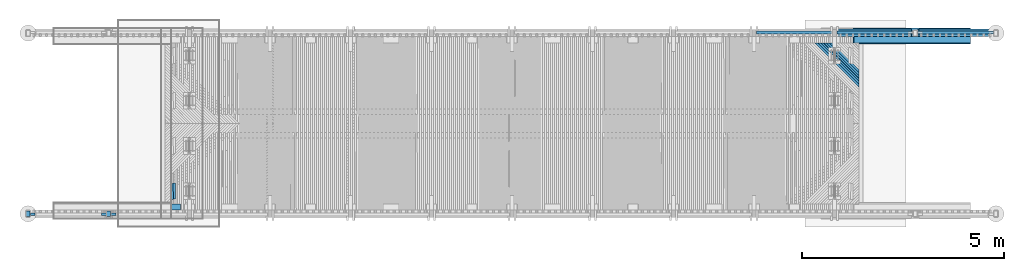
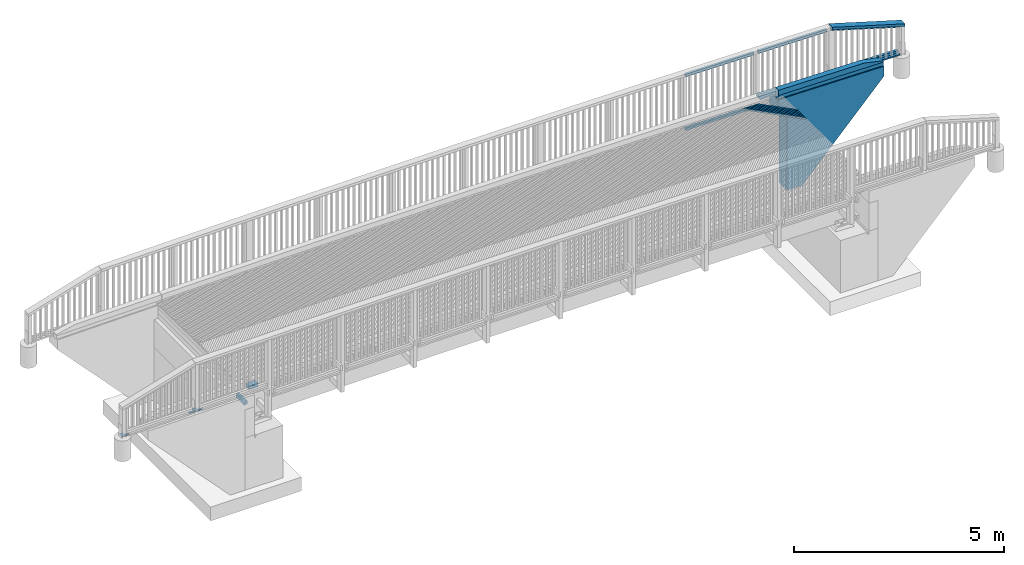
# One storey, part 46 of 52: 26 beams.
"""IFC2X3 building model written with IfcOpenShell, lengths in millimetres."""

from ifc_helpers import new_model, si_unit, frame, origin_with_axes, place, context, subcontext, project, spatial, faceted_brep, material, type_object, element, save


model = new_model("IFC2X3")

# Units and contexts
model_context = context("Model", 3, precision=1e-05, world=origin_with_axes())
body_context = subcontext(model_context, "Body", "Model", "MODEL_VIEW")
ifc_project = project(units=[si_unit("LENGTHUNIT", "METRE", prefix="MILLI"), si_unit("AREAUNIT", "SQUARE_METRE"), si_unit("VOLUMEUNIT", "CUBIC_METRE"), si_unit("MASSUNIT", "GRAM", prefix="KILO"), si_unit("TIMEUNIT", "SECOND"), si_unit("PLANEANGLEUNIT", "RADIAN"), si_unit("SOLIDANGLEUNIT", "STERADIAN"), si_unit("THERMODYNAMICTEMPERATUREUNIT", "DEGREE_CELSIUS"), si_unit("LUMINOUSINTENSITYUNIT", "LUMEN")], contexts=[model_context])

# Site, building, storey
site_placement = place(None, origin_with_axes())
site = spatial("IfcSite", under=ifc_project, at=site_placement, Name="Undefined", CompositionType="ELEMENT")
building_placement = place(site_placement, origin_with_axes())
building = spatial("IfcBuilding", under=site, at=building_placement, Name="Undefined", CompositionType="ELEMENT")
storey_placement = place(building_placement, origin_with_axes())
storey = spatial("IfcBuildingStorey", under=building, at=storey_placement, Name="Undefined", CompositionType="ELEMENT", Elevation=0.0)

# Beams
ifc_material_1 = material(Name="TIMBER/Timber_Undefined")
beam_type_1 = type_object("IfcBeamType", Name="150*100", PredefinedType="NOTDEFINED")
beam_1_placement = place(storey_placement, frame((19364.0305880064, 4439.99999999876, 3118.67572907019), z_axis=(0.0, -1.0, 0.0), x_axis=(-0.999904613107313, 0.0, 0.0138117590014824)))
element("IfcBeam", 1, at=beam_1_placement, inside=storey, type_object=beam_type_1, material=ifc_material_1, Name="TÖRMÄYSJOHDE", ObjectType="150*100", context=body_context, shape_type="Brep", body=[
    faceted_brep([(-3.63797880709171e-12, 50.0, -75.0), (-3.63797880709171e-12, 50.0, 75.0), (2885.27521749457, 50.0, 75.0), (2885.27521749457, 50.0, -75.0), (0.0, -49.9999999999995, 75.0), (2885.27521749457, -49.9999999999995, 75.0), (0.0, -49.9999999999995, -75.0), (2885.27521749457, -49.9999999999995, -75.0)], [[[0, 1, 2, 3]], [[1, 4, 5, 2]], [[4, 6, 7, 5]], [[6, 0, 3, 7]], [[5, 7, 3, 2]], [[6, 4, 1, 0]]]),
])
beam_2_placement = place(storey_placement, frame((-469.724815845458, 289.999999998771, 3158.3535078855), z_axis=(0.0, -1.0, 0.0), x_axis=(0.999891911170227, 0.0, 0.0147025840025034)))
element("IfcBeam", 2, at=beam_2_placement, inside=storey, type_object=beam_type_1, material=ifc_material_1, Name="TÖRMÄYSJOHDE", ObjectType="150*100", context=body_context, shape_type="Brep", body=[
    faceted_brep([(-3.63797880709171e-12, 50.0, -75.0), (-3.63797880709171e-12, 50.0, 75.0), (250.000589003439, 50.0000000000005, 75.0), (250.000589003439, 50.0000000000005, -75.0), (0.0, -49.9999999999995, 75.0), (250.000589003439, -50.0, 75.0), (0.0, -49.9999999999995, -75.0), (250.000589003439, -50.0, -75.0)], [[[0, 1, 2, 3]], [[1, 4, 5, 2]], [[4, 6, 7, 5]], [[6, 0, 3, 7]], [[5, 7, 3, 2]], [[6, 4, 1, 0]]]),
])
beam_type_2 = type_object("IfcBeamType", Name="150*150", PredefinedType="NOTDEFINED")
beam_3_placement = place(storey_placement, frame((19366.0358819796, 4439.99999999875, 3243.66334439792), z_axis=(0.0, -1.0, 0.0), x_axis=(-0.999904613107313, 0.0, 0.0138117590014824)))
element("IfcBeam", 3, at=beam_3_placement, inside=storey, type_object=beam_type_2, material=ifc_material_1, Name="TÖRMÄYSJOHDE", ObjectType="150*150", context=body_context, shape_type="Brep", body=[
    faceted_brep([(2885.27521749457, -74.9999999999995, 75.0), (2885.27521749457, -74.9999999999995, -75.0), (2885.27521749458, 75.0, -75.0), (2885.27521749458, 75.0, 75.0), (3.63797880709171e-12, 75.0000000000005, -75.0), (3.63797880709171e-12, 75.0000000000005, 75.0), (3.63797880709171e-12, 33.1222400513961, -75.0), (3.63797880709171e-12, 33.1222400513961, 75.0), (529.511118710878, -75.0, 75.0), (529.511118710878, -75.0, -75.0)], [[[0, 1, 2, 3]], [[4, 5, 3, 2]], [[5, 4, 6, 7]], [[0, 3, 5, 7, 8]], [[1, 0, 8, 9]], [[4, 2, 1, 9, 6]], [[8, 7, 6, 9]]]),
])
ifc_material_2 = material(Name="STEEL/AISI316")
beam_type_3 = type_object("IfcBeamType", Name="PL60*10", PredefinedType="NOTDEFINED")
for number, where, z_axis, x_axis in (
    (4, (-3940.00349607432, 109.999999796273, 3073.75999999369), (-0.000116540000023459, 0.999999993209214, 0.0), (0.999999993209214, 0.000116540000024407, 0.0)),
    (5, (-2059.99650392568, 109.999999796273, 3101.8699999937), (0.000116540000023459, 0.999999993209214, 0.0), (-0.999999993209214, 0.000116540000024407, 0.0)),
    (6, (-1940.00349607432, 109.999999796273, 3101.86999999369), (-0.000116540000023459, 0.999999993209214, 0.0), (0.999999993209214, 0.000116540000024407, 0.0)),
):
    element("IfcBeam", number, at=place(storey_placement, frame(where, z_axis=z_axis, x_axis=x_axis)), inside=storey, type_object=beam_type_3, material=ifc_material_2, Name="KAIDEPYLVÄS", ObjectType="PL60*10", context=body_context, shape_type="Brep", body=[
        faceted_brep([(0.0, 5.0, -30.0), (3.63797880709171e-12, 5.0, 30.0000000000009), (115.000000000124, 5.0, 30.0000000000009), (115.000000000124, 5.0, -30.0), (3.63797880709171e-12, -5.0, 30.0000000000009), (115.000000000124, -5.0, 30.0000000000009), (0.0, -5.0, -30.0), (115.000000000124, -5.0, -30.0)], [[[0, 1, 2, 3]], [[1, 4, 5, 2]], [[4, 6, 7, 5]], [[6, 0, 3, 7]], [[5, 7, 3, 2]], [[6, 4, 1, 0]]]),
    ])
beam_type_4 = type_object("IfcBeamType", Name="PL100*10", PredefinedType="NOTDEFINED")
for number, where, z_axis, x_axis in (
    (7, (-3999.99999987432, 55.0200000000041, 3089.56000000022), (-1.0, 0.0, 0.0), (0.0, 1.0, 0.0)),
    (8, (-1999.99999987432, 55.0200000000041, 3117.67000000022), (-1.0, 0.0, 0.0), (0.0, 1.0, 0.0)),
):
    element("IfcBeam", number, at=place(storey_placement, frame(where, z_axis=z_axis, x_axis=x_axis)), inside=storey, type_object=beam_type_4, material=ifc_material_2, Name="KAIDEPYLVÄS", ObjectType="PL100*10", context=body_context, shape_type="Brep", body=[
        faceted_brep([(0.0, 5.0, -50.0), (0.0, 5.0, 50.0), (140.0, 5.0, 50.0), (140.0, 5.0, -50.0), (0.0, -5.0, 50.0), (140.0, -5.0, 50.0), (0.0, -5.0, -50.0), (140.0, -5.0, -50.0)], [[[0, 1, 2, 3]], [[1, 4, 5, 2]], [[4, 6, 7, 5]], [[6, 0, 3, 7]], [[5, 7, 3, 2]], [[6, 4, 1, 0]]]),
    ])
ifc_material_3 = material(Name="CONCRETE/Concrete_Undefined")
beam_type_5 = type_object("IfcBeamType", Name="2800*400", PredefinedType="NOTDEFINED")
beam_4_placement = place(storey_placement, frame((16430.3400332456, 4530.0, 1712.66804762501), z_axis=(0.0140428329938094, 0.0, 0.999901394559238), x_axis=(0.999901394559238, 0.0, -0.0140428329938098)))
element("IfcBeam", 9, at=beam_4_placement, inside=storey, type_object=beam_type_5, material=ifc_material_3, Name="SIIPIMUURI", ObjectType="2800*400", context=body_context, shape_type="Brep", body=[
    faceted_brep([(0.280884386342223, 199.999999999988, 1380.0), (3.63797880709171e-12, -200.0, 1400.0), (2915.2874638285, -200.0, 1400.0), (2915.5683481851, 200.0, 1380.0), (270.457242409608, 199.999999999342, -54.8754727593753), (270.457242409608, -200.0, -54.8754727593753), (255.29098277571, -200.0, 1025.01803336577), (255.29098277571, 199.999999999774, 1025.01803336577), (288.066954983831, 200.0, -1308.75182153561), (288.066954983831, -200.0, -1308.75182153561), (697.173583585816, 200.0, -1303.00623892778), (697.173583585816, -200.0, -1303.00623892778), (2919.22031514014, 200.0, 1119.96651154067), (2919.22031514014, -200.0, 1119.96651154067), (5.31563413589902, -200.0, 1021.50732511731), (5.31563413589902, 199.999999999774, 1021.50732511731)], [[[0, 1, 2, 3]], [[4, 5, 6, 7]], [[8, 9, 5, 4]], [[10, 11, 9, 8]], [[12, 13, 11, 10]], [[13, 12, 3, 2]], [[6, 5, 9, 11, 13, 2, 1, 14]], [[7, 6, 14, 15]], [[12, 10, 8, 4, 7, 15, 0, 3]], [[15, 14, 1, 0]]]),
])
beam_type_6 = type_object("IfcBeamType", Name="70*70", PredefinedType="NOTDEFINED")
beam_5_placement = place(storey_placement, frame((19930.4049244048, 4619.99004526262, 3879.53617466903), z_axis=(0.0, 1.0, 0.0), x_axis=(-0.958203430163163, 0.0, 0.286087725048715)))
element("IfcBeam", 10, at=beam_5_placement, inside=storey, type_object=beam_type_6, material=ifc_material_1, Name="BEAM", ObjectType="70*70", context=body_context, shape_type="Brep", body=[
    faceted_brep([(0.436228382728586, 35.0000000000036, -35.0), (0.436228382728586, 35.0000000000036, 35.0), (1962.44131083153, 35.0000000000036, 35.0), (1962.44131083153, 35.0000000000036, -35.0), (-20.4634471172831, -34.9999999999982, 35.0), (1941.54163533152, -34.9999999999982, 35.0), (-20.4634471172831, -34.9999999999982, -35.0), (1941.54163533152, -34.9999999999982, -35.0)], [[[0, 1, 2, 3]], [[1, 4, 5, 2]], [[4, 6, 7, 5]], [[6, 0, 3, 7]], [[5, 7, 3, 2]], [[6, 4, 1, 0]]]),
])
beam_6_placement = place(storey_placement, frame((19909.4703719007, 4619.99002995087, 3156.34116342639), z_axis=(0.0, 1.0, 0.0), x_axis=(-0.999883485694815, 0.0, 0.0152648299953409)))
element("IfcBeam", 11, at=beam_6_placement, inside=storey, type_object=beam_type_6, material=ifc_material_1, Name="BEAM", ObjectType="70*70", context=body_context, shape_type="Brep", body=[
    faceted_brep([(-3.63797880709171e-12, 35.0000000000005, -35.0), (-3.63797880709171e-12, 35.0000000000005, 35.0), (1820.22135781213, 35.0, 35.0), (1820.22135781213, 35.0, -35.0), (-3.63797880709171e-12, -34.9999999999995, 35.0), (1820.22135781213, -34.9999999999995, 35.0), (-3.63797880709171e-12, -34.9999999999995, -35.0), (1820.22135781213, -34.9999999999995, -35.0)], [[[0, 1, 2, 3]], [[1, 4, 5, 2]], [[4, 6, 7, 5]], [[6, 0, 3, 7]], [[5, 7, 3, 2]], [[6, 4, 1, 0]]]),
])
beam_7_placement = place(storey_placement, frame((17909.4703719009, 4619.99002995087, 3186.87116342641), z_axis=(0.0, 1.0, 0.0), x_axis=(-0.999883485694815, 0.0, 0.0152648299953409)))
element("IfcBeam", 12, at=beam_7_placement, inside=storey, type_object=beam_type_6, material=ifc_material_1, Name="BEAM", ObjectType="70*70", context=body_context, shape_type="Brep", body=[
    faceted_brep([(-3.63797880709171e-12, 35.0000000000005, -35.0), (-3.63797880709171e-12, 35.0000000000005, 35.0), (1850.22135781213, 34.9999999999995, 35.0), (1850.22135781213, 34.9999999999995, -35.0), (-3.63797880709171e-12, -34.9999999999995, 35.0), (1850.22135781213, -35.0, 35.0), (-3.63797880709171e-12, -34.9999999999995, -35.0), (1850.22135781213, -35.0, -35.0)], [[[0, 1, 2, 3]], [[1, 4, 5, 2]], [[4, 6, 7, 5]], [[6, 0, 3, 7]], [[5, 7, 3, 2]], [[6, 4, 1, 0]]]),
])
beam_8_placement = place(storey_placement, frame((17939.4668764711, 4619.99002995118, 4446.41321852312), z_axis=(0.0, 1.0, 0.0), x_axis=(-0.999883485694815, 0.0, 0.0152648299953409)))
element("IfcBeam", 13, at=beam_8_placement, inside=storey, type_object=beam_type_6, material=ifc_material_1, Name="BEAM", ObjectType="70*70", context=body_context, shape_type="Brep", body=[
    faceted_brep([(-3.63797880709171e-12, 35.0000000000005, -35.0), (-3.63797880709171e-12, 35.0000000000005, 35.0), (1880.22135781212, 35.0000000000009, 35.0), (1880.22135781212, 35.0000000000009, -35.0), (-3.63797880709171e-12, -34.9999999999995, 35.0), (1880.22135781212, -35.0, 35.0), (-3.63797880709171e-12, -34.9999999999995, -35.0), (1880.22135781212, -35.0, -35.0)], [[[0, 1, 2, 3]], [[1, 4, 5, 2]], [[4, 6, 7, 5]], [[6, 0, 3, 7]], [[5, 7, 3, 2]], [[6, 4, 1, 0]]]),
])
for number, where, z_axis, x_axis, name in (
    (14, (14059.5719402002, 4619.99001181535, 2938.34227096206), (0.0, 1.0, 0.0), (0.999925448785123, 0.0, -0.0122105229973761), "BEAM"),
    (15, (14059.5719402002, 4619.99001181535, 4498.34227096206), (0.0, 1.0, 0.0), (0.999925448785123, 0.0, -0.0122105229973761), "BEAM"),
):
    element("IfcBeam", number, at=place(storey_placement, frame(where, z_axis=z_axis, x_axis=x_axis)), inside=storey, type_object=beam_type_6, material=ifc_material_1, Name=name, ObjectType="70*70", context=body_context, shape_type="Brep", body=[
        faceted_brep([(-3.63797880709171e-12, 35.0000000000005, -35.0), (-3.63797880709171e-12, 35.0000000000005, 35.0), (1880.14165787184, 35.0, 35.0), (1880.14165787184, 35.0, -35.0), (-3.63797880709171e-12, -34.9999999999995, 35.0), (1880.14165787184, -34.9999999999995, 35.0), (-3.63797880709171e-12, -34.9999999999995, -35.0), (1880.14165787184, -34.9999999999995, -35.0)], [[[0, 1, 2, 3]], [[1, 4, 5, 2]], [[4, 6, 7, 5]], [[6, 0, 3, 7]], [[5, 7, 3, 2]], [[6, 4, 1, 0]]]),
    ])
beam_type_7 = type_object("IfcBeamType", Name="195*40", PredefinedType="NOTDEFINED")
beam_9_placement = place(storey_placement, frame((19909.6993443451, 4612.49002995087, 3101.33941571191), z_axis=(0.0, 1.0, 0.0), x_axis=(-0.999883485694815, 0.0, 0.0152648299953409)))
element("IfcBeam", 16, at=beam_9_placement, inside=storey, type_object=beam_type_7, material=ifc_material_1, Name="BEAM", ObjectType="195*40", context=body_context, shape_type="Brep", body=[
    faceted_brep([(0.0, 20.0, -97.5), (0.0, 20.0, 97.5), (1820.22135781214, 20.0, 97.5), (1820.22135781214, 20.0, -97.5), (3.63797880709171e-12, -20.0, 97.5), (1820.22135781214, -20.0, 97.5), (3.63797880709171e-12, -20.0, -97.5), (1820.22135781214, -20.0, -97.5)], [[[0, 1, 2, 3]], [[1, 4, 5, 2]], [[4, 6, 7, 5]], [[6, 0, 3, 7]], [[5, 7, 3, 2]], [[6, 4, 1, 0]]]),
])
beam_type_8 = type_object("IfcBeamType", Name="180*70", PredefinedType="NOTDEFINED")
beam_10_placement = place(storey_placement, frame((18039.9342024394, 4605.00996402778, 4517.05500293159), z_axis=(0.0, -1.0, 0.0), x_axis=(0.958243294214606, 0.0, -0.285954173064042)))
element("IfcBeam", 17, at=beam_10_placement, inside=storey, type_object=beam_type_8, material=ifc_material_1, Name="YLÄJOHDE", ObjectType="180*70", context=body_context, shape_type="Brep", body=[
    faceted_brep([(41.6879268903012, -35.0699417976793, -90.0), (41.6879268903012, -35.0699417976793, 90.0), (20.9594530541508, -35.0351891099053, 90.0), (20.9594530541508, -35.0351891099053, -90.0), (41.8028913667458, 34.9299637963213, 90.0), (0.0598773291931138, 34.9999487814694, 90.0), (41.8028913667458, 34.9299637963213, -90.0), (0.0598773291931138, 34.9999487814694, -90.0), (83.5459100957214, 34.8628353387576, -90.0), (83.4357358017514, -35.1370779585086, -90.0), (83.4357358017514, -35.1370779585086, 90.0), (83.5459100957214, 34.8628353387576, 90.0), (125.288933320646, 34.7985634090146, 90.0), (125.288933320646, 34.7985634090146, -90.0), (125.183549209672, -35.2013572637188, -90.0), (125.183549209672, -35.2013572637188, 90.0), (166.931366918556, -35.2627797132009, 90.0), (167.031960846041, 34.7371480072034, 90.0), (167.031960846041, 34.7371480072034, -90.0), (166.931366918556, -35.2627797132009, -90.0), (208.679188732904, -35.3213453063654, -90.0), (208.679188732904, -35.3213453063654, 90.0), (208.774992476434, 34.6785891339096, 90.0), (208.774992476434, 34.6785891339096, -90.0), (250.518028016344, 34.6228867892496, -90.0), (250.42701445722, -35.3770540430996, -90.0), (250.42701445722, -35.3770540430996, 90.0), (250.518028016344, 34.6228867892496, 90.0), (292.261067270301, 34.5700409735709, 90.0), (292.261067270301, 34.5700409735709, -90.0), (292.174843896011, -35.4299059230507, -90.0), (292.174843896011, -35.4299059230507, 90.0), (333.922676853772, -35.4799009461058, 90.0), (334.004110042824, 34.52005168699, 90.0), (334.004110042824, 34.52005168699, -90.0), (333.922676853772, -35.4799009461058, -90.0), (375.670513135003, -35.5270391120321, -90.0), (375.670513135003, -35.5270391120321, 90.0), (375.747156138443, 34.4729189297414, 90.0), (375.747156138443, 34.4729189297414, -90.0), (417.490205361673, 34.4286427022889, -90.0), (417.418352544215, -35.5713204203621, -90.0), (417.418352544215, -35.5713204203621, 90.0), (417.490205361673, 34.4286427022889, 90.0), (459.233257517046, 34.3872230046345, 90.0), (459.233257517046, 34.3872230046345, -90.0), (459.166194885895, -35.6127448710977, -90.0), (459.166194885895, -35.6127448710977, 90.0), (500.914039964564, -35.6513124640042, 90.0), (500.97631240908, 34.3486598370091, 90.0), (500.97631240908, 34.3486598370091, -90.0), (500.914039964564, -35.6513124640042, -90.0), (542.661887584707, -35.6870231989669, -90.0), (542.661887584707, -35.6870231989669, 90.0), (542.719369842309, 34.3129531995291, 90.0), (542.719369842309, 34.3129531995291, -90.0), (584.462429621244, 34.2801030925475, -90.0), (584.40973755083, -35.7198770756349, -90.0), (584.40973755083, -35.7198770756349, 90.0), (584.462429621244, 34.2801030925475, 90.0), (626.205491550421, 34.2501095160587, 90.0), (626.205491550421, 34.2501095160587, -90.0), (626.157589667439, -35.7498740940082, -90.0), (626.157589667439, -35.7498740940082, 90.0), (667.905443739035, -35.7770142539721, 90.0), (667.948555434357, 34.2229724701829, 90.0), (667.948555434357, 34.2229724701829, -90.0), (667.905443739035, -35.7770142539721, -90.0), (709.653299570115, -35.801297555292, -90.0), (709.653299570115, -35.801297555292, 90.0), (709.691621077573, 34.1986919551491, 90.0), (709.691621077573, 34.1986919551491, -90.0), (751.434688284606, 34.1772679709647, -90.0), (751.401156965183, -35.8227239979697, -90.0), (751.401156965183, -35.8227239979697, 90.0), (751.434688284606, 34.1772679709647, 90.0), (793.177756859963, 34.1587005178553, 90.0), (793.177756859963, 34.1587005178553, -90.0), (793.149015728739, -35.8412935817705, -90.0), (793.149015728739, -35.8412935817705, 90.0), (834.896875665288, -35.8570063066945, 90.0), (834.920826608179, 34.1429895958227, 90.0), (834.920826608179, 34.1429895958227, -90.0), (834.896875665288, -35.8570063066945, -90.0), (876.644736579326, -35.8698621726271, -90.0), (876.644736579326, -35.8698621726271, 90.0), (876.663897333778, 34.1301352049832, 90.0), (876.663897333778, 34.1301352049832, -90.0), (918.406968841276, 34.1201373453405, -90.0), (918.392598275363, -35.8798611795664, -90.0), (918.392598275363, -35.8798611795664, 90.0), (918.406968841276, 34.1201373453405, 90.0), (960.150040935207, 34.112996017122, 90.0), (960.150040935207, 34.112996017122, -90.0), (960.140460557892, -35.8870033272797, -90.0), (960.140460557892, -35.8870033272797, 90.0), (1001.88832323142, -35.8912886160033, 90.0), (1001.89311342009, 34.1087112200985, 90.0), (1001.89311342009, 34.1087112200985, -90.0), (1001.88832323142, -35.8912886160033, -90.0), (1043.63618610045, -35.8927170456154, -90.0), (1043.63618610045, -35.8927170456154, 90.0), (1043.63618610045, 34.1072829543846, 90.0), (1043.63618610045, 34.1072829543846, -90.0), (1085.3792587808, 34.1087112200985, -90.0), (1085.38404896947, -35.8912886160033, -90.0), (1085.38404896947, -35.8912886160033, 90.0), (1085.3792587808, 34.1087112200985, 90.0), (1127.12233126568, 34.112996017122, 90.0), (1127.12233126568, 34.112996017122, -90.0), (1127.131911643, -35.8870033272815, -90.0), (1127.131911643, -35.8870033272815, 90.0), (1168.87977392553, -35.8798611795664, 90.0), (1168.86540335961, 34.1201373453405, 90.0), (1168.86540335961, 34.1201373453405, -90.0), (1168.87977392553, -35.8798611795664, -90.0), (1210.62763562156, -35.8698621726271, -90.0), (1210.62763562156, -35.8698621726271, 90.0), (1210.60847486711, 34.130135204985, 90.0), (1210.60847486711, 34.130135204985, -90.0), (1252.35154559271, 34.1429895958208, -90.0), (1252.3754965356, -35.8570063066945, -90.0), (1252.3754965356, -35.8570063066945, 90.0), (1252.35154559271, 34.1429895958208, 90.0), (1294.09461534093, 34.1587005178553, 90.0), (1294.09461534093, 34.1587005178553, -90.0), (1294.12335647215, -35.8412935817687, -90.0), (1294.12335647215, -35.8412935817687, 90.0), (1335.87121523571, -35.8227239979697, 90.0), (1335.83768391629, 34.1772679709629, 90.0), (1335.83768391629, 34.1772679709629, -90.0), (1335.87121523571, -35.8227239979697, -90.0), (1377.61907263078, -35.801297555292, -90.0), (1377.61907263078, -35.801297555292, 90.0), (1377.58075112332, 34.1986919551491, 90.0), (1377.58075112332, 34.1986919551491, -90.0), (1419.32381676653, 34.222972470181, -90.0), (1419.36692846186, -35.7770142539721, -90.0), (1419.36692846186, -35.7770142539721, 90.0), (1419.32381676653, 34.222972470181, 90.0), (1461.06688065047, 34.2501095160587, 90.0), (1461.06688065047, 34.2501095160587, -90.0), (1461.11478253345, -35.74987409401, -90.0), (1461.11478253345, -35.74987409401, 90.0), (1502.86263465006, -35.7198770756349, 90.0), (1502.80994257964, 34.2801030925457, 90.0), (1502.80994257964, 34.2801030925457, -90.0), (1502.86263465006, -35.7198770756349, -90.0), (1544.61048461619, -35.6870231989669, -90.0), (1544.61048461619, -35.6870231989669, 90.0), (1544.55300235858, 34.3129531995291, 90.0), (1544.55300235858, 34.3129531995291, -90.0), (1586.29605979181, 34.3486598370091, -90.0), (1586.35833223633, -35.6513124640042, -90.0), (1586.35833223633, -35.6513124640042, 90.0), (1586.29605979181, 34.3486598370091, 90.0), (1628.03911468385, 34.3872230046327, 90.0), (1628.03911468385, 34.3872230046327, -90.0), (1628.10617731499, -35.6127448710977, -90.0), (1628.10617731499, -35.6127448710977, 90.0), (1669.85401965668, -35.5713204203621, 90.0), (1669.78216683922, 34.4286427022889, 90.0), (1669.78216683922, 34.4286427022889, -90.0), (1669.85401965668, -35.5713204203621, -90.0), (1711.60185906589, -35.5270391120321, -90.0), (1711.60185906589, -35.5270391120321, 90.0), (1711.52521606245, 34.4729189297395, 90.0), (1711.52521606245, 34.4729189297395, -90.0), (1753.26826215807, 34.52005168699, -90.0), (1753.34969534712, -35.4799009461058, -90.0), (1753.34969534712, -35.4799009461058, 90.0), (1753.26826215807, 34.52005168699, 90.0), (1795.01130493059, 34.5700409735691, 90.0), (1795.01130493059, 34.5700409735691, -90.0), (1795.09752830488, -35.4299059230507, -90.0), (1795.09752830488, -35.4299059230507, 90.0), (1836.84535774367, -35.3770540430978, 90.0), (1836.75434418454, 34.6228867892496, 90.0), (1836.75434418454, 34.6228867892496, -90.0), (1836.84535774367, -35.3770540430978, -90.0), (1878.59318346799, -35.3213453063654, -90.0), (1878.59318346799, -35.3213453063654, 90.0), (1878.49737972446, 34.6785891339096, 90.0), (1878.49737972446, 34.6785891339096, -90.0), (1920.24041135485, 34.7371480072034, -90.0), (1920.34100528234, -35.2627797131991, -90.0), (1920.34100528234, -35.2627797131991, 90.0), (1920.24041135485, 34.7371480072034, 90.0), (1961.98343888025, 34.7985634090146, 90.0), (1961.98343888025, 34.7985634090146, -90.0), (1962.08882299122, -35.2013572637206, -90.0), (1962.08882299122, -35.2013572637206, 90.0), (2003.83663639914, -35.1370779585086, 90.0), (2003.72646210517, 34.8628353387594, 90.0), (2003.72646210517, 34.8628353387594, -90.0), (2003.83663639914, -35.1370779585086, -90.0), (2045.58444531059, -35.0699417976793, 90.0), (2045.58444531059, -35.0699417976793, -90.0), (2087.33224953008, -34.9999487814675, -90.0), (2087.33224953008, -34.9999487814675, 90.0), (2045.46948083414, 34.9299637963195, 90.0), (2045.46948083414, 34.9299637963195, -90.0), (2087.2124948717, 34.9999487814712, -90.0), (2108.09074495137, -34.9637252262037, -90.0), (2108.09074495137, -34.9637252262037, 90.0), (2087.2124948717, 34.9999487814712, 90.0)], [[[0, 1, 2, 3]], [[1, 4, 5, 2]], [[4, 6, 7, 5]], [[2, 5, 7, 3]], [[6, 0, 3, 7]], [[0, 6, 8, 9]], [[1, 0, 9, 10]], [[4, 1, 10, 11]], [[6, 4, 11, 8]], [[8, 11, 12, 13]], [[9, 8, 13, 14]], [[10, 9, 14, 15]], [[11, 10, 15, 12]], [[12, 15, 16, 17]], [[13, 12, 17, 18]], [[14, 13, 18, 19]], [[15, 14, 19, 16]], [[16, 19, 20, 21]], [[17, 16, 21, 22]], [[18, 17, 22, 23]], [[19, 18, 23, 20]], [[20, 23, 24, 25]], [[21, 20, 25, 26]], [[22, 21, 26, 27]], [[23, 22, 27, 24]], [[24, 27, 28, 29]], [[25, 24, 29, 30]], [[26, 25, 30, 31]], [[27, 26, 31, 28]], [[28, 31, 32, 33]], [[29, 28, 33, 34]], [[30, 29, 34, 35]], [[31, 30, 35, 32]], [[32, 35, 36, 37]], [[33, 32, 37, 38]], [[34, 33, 38, 39]], [[35, 34, 39, 36]], [[36, 39, 40, 41]], [[37, 36, 41, 42]], [[38, 37, 42, 43]], [[39, 38, 43, 40]], [[40, 43, 44, 45]], [[41, 40, 45, 46]], [[42, 41, 46, 47]], [[43, 42, 47, 44]], [[44, 47, 48, 49]], [[45, 44, 49, 50]], [[46, 45, 50, 51]], [[47, 46, 51, 48]], [[48, 51, 52, 53]], [[49, 48, 53, 54]], [[50, 49, 54, 55]], [[51, 50, 55, 52]], [[52, 55, 56, 57]], [[53, 52, 57, 58]], [[54, 53, 58, 59]], [[55, 54, 59, 56]], [[56, 59, 60, 61]], [[57, 56, 61, 62]], [[58, 57, 62, 63]], [[59, 58, 63, 60]], [[60, 63, 64, 65]], [[61, 60, 65, 66]], [[62, 61, 66, 67]], [[63, 62, 67, 64]], [[64, 67, 68, 69]], [[65, 64, 69, 70]], [[66, 65, 70, 71]], [[67, 66, 71, 68]], [[68, 71, 72, 73]], [[69, 68, 73, 74]], [[70, 69, 74, 75]], [[71, 70, 75, 72]], [[72, 75, 76, 77]], [[73, 72, 77, 78]], [[74, 73, 78, 79]], [[75, 74, 79, 76]], [[76, 79, 80, 81]], [[77, 76, 81, 82]], [[78, 77, 82, 83]], [[79, 78, 83, 80]], [[80, 83, 84, 85]], [[81, 80, 85, 86]], [[82, 81, 86, 87]], [[83, 82, 87, 84]], [[84, 87, 88, 89]], [[85, 84, 89, 90]], [[86, 85, 90, 91]], [[87, 86, 91, 88]], [[88, 91, 92, 93]], [[89, 88, 93, 94]], [[90, 89, 94, 95]], [[91, 90, 95, 92]], [[92, 95, 96, 97]], [[93, 92, 97, 98]], [[94, 93, 98, 99]], [[95, 94, 99, 96]], [[96, 99, 100, 101]], [[97, 96, 101, 102]], [[98, 97, 102, 103]], [[99, 98, 103, 100]], [[100, 103, 104, 105]], [[101, 100, 105, 106]], [[102, 101, 106, 107]], [[103, 102, 107, 104]], [[104, 107, 108, 109]], [[105, 104, 109, 110]], [[106, 105, 110, 111]], [[107, 106, 111, 108]], [[108, 111, 112, 113]], [[109, 108, 113, 114]], [[110, 109, 114, 115]], [[111, 110, 115, 112]], [[112, 115, 116, 117]], [[113, 112, 117, 118]], [[114, 113, 118, 119]], [[115, 114, 119, 116]], [[116, 119, 120, 121]], [[117, 116, 121, 122]], [[118, 117, 122, 123]], [[119, 118, 123, 120]], [[120, 123, 124, 125]], [[121, 120, 125, 126]], [[122, 121, 126, 127]], [[123, 122, 127, 124]], [[124, 127, 128, 129]], [[125, 124, 129, 130]], [[126, 125, 130, 131]], [[127, 126, 131, 128]], [[128, 131, 132, 133]], [[129, 128, 133, 134]], [[130, 129, 134, 135]], [[131, 130, 135, 132]], [[132, 135, 136, 137]], [[133, 132, 137, 138]], [[134, 133, 138, 139]], [[135, 134, 139, 136]], [[136, 139, 140, 141]], [[137, 136, 141, 142]], [[138, 137, 142, 143]], [[139, 138, 143, 140]], [[140, 143, 144, 145]], [[141, 140, 145, 146]], [[142, 141, 146, 147]], [[143, 142, 147, 144]], [[144, 147, 148, 149]], [[145, 144, 149, 150]], [[146, 145, 150, 151]], [[147, 146, 151, 148]], [[148, 151, 152, 153]], [[149, 148, 153, 154]], [[150, 149, 154, 155]], [[151, 150, 155, 152]], [[152, 155, 156, 157]], [[153, 152, 157, 158]], [[154, 153, 158, 159]], [[155, 154, 159, 156]], [[156, 159, 160, 161]], [[157, 156, 161, 162]], [[158, 157, 162, 163]], [[159, 158, 163, 160]], [[160, 163, 164, 165]], [[161, 160, 165, 166]], [[162, 161, 166, 167]], [[163, 162, 167, 164]], [[164, 167, 168, 169]], [[165, 164, 169, 170]], [[166, 165, 170, 171]], [[167, 166, 171, 168]], [[168, 171, 172, 173]], [[169, 168, 173, 174]], [[170, 169, 174, 175]], [[171, 170, 175, 172]], [[172, 175, 176, 177]], [[173, 172, 177, 178]], [[174, 173, 178, 179]], [[175, 174, 179, 176]], [[176, 179, 180, 181]], [[177, 176, 181, 182]], [[178, 177, 182, 183]], [[179, 178, 183, 180]], [[180, 183, 184, 185]], [[181, 180, 185, 186]], [[182, 181, 186, 187]], [[183, 182, 187, 184]], [[184, 187, 188, 189]], [[185, 184, 189, 190]], [[186, 185, 190, 191]], [[187, 186, 191, 188]], [[188, 191, 192, 193]], [[189, 188, 193, 194]], [[190, 189, 194, 195]], [[191, 190, 195, 192]], [[196, 197, 198, 199]], [[192, 195, 197, 196]], [[193, 192, 196, 200]], [[194, 193, 200, 201]], [[195, 194, 201, 197]], [[197, 201, 202, 198]], [[198, 202, 203]], [[199, 198, 203, 204]], [[199, 204, 205]], [[200, 196, 199, 205]], [[201, 200, 205, 202]], [[204, 203, 202, 205]]]),
])
beam_type_9 = type_object("IfcBeamType", Name="100*60", PredefinedType="NOTDEFINED")
beam_11_placement = place(storey_placement, frame((-380.01, 497.5, 2533.62000000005), z_axis=(0.0, 0.0, 1.0), x_axis=(0.0, 1.0, 0.0)))
element("IfcBeam", 18, at=beam_11_placement, inside=storey, type_object=beam_type_9, material=ifc_material_1, Name="BEAM", ObjectType="100*60", context=body_context, shape_type="Brep", body=[
    faceted_brep([(0.0, -30.0, 50.0), (0.0, -30.0, -50.0), (395.0, -30.0, -50.0), (395.0, -30.0, 50.0), (0.0, 15.2499998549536, 50.0), (0.0, 15.2499998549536, -50.0), (395.0, 25.25, -50.0), (395.0, 25.25, 50.0)], [[[0, 1, 2, 3]], [[1, 0, 4, 5]], [[2, 1, 5, 6]], [[3, 2, 6, 7]], [[0, 3, 7, 4]], [[6, 5, 4, 7]]]),
])
beam_12_placement = place(storey_placement, frame((-420.01, 477.5, 2533.62000000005), z_axis=(0.0, 0.0, 1.0), x_axis=(0.0, 1.0, 0.0)))
element("IfcBeam", 19, at=beam_12_placement, inside=storey, type_object=beam_type_9, material=ifc_material_1, Name="BEAM", ObjectType="100*60", context=body_context, shape_type="Brep", body=[
    faceted_brep([(0.0, 30.0, -50.0), (0.0, 30.0, 50.0), (395.0, 30.0, 50.0), (395.0, 30.0, -50.0), (0.0, -25.2563292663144, 50.0), (395.0, -15.2563291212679, 50.0), (395.0, -15.2563291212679, -50.0), (0.0, -25.2563292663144, -50.0)], [[[0, 1, 2, 3]], [[2, 1, 4, 5]], [[3, 2, 5, 6]], [[0, 3, 6, 7]], [[1, 0, 7, 4]], [[6, 5, 4, 7]]]),
])
beam_type_10 = type_object("IfcBeamType", Name="50*50", PredefinedType="NOTDEFINED")
beam_13_placement = place(storey_placement, frame((17895.3052888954, 2365.49989967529, 3154.80495489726), z_axis=(0.706807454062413, 0.706981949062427, -0.0244897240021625), x_axis=(-0.707254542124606, 0.706948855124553, -0.00378535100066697)))
element("IfcBeam", 20, at=beam_13_placement, inside=storey, type_object=beam_type_10, material=ifc_material_1, Name="BEAM", ObjectType="50*50", context=body_context, shape_type="Brep", body=[
    faceted_brep([(2804.3406783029, -25.0000000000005, 24.9999999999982), (2854.34301907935, -24.9999999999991, -25.0), (2852.92877373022, 25.0000000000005, -25.0), (2802.92643296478, 25.0, 24.9999999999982), (1856.95717342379, 25.0, 24.9999999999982), (1855.92241106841, -24.9999999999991, 24.9999999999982), (1805.95401836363, -24.9999999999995, -25.0000000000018), (1806.98878071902, 25.0, -25.0000000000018)], [[[0, 1, 2, 3]], [[0, 3, 4, 5]], [[1, 0, 5, 6]], [[2, 1, 6, 7]], [[3, 2, 7, 4]], [[6, 5, 4, 7]]]),
])
beam_14_placement = place(storey_placement, frame((17824.5905388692, 2365.49989967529, 3155.96311087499), z_axis=(0.706810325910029, 0.706981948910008, -0.0244067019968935), x_axis=(-0.707254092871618, 0.706948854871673, -0.00386842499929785)))
element("IfcBeam", 21, at=beam_14_placement, inside=storey, type_object=beam_type_10, material=ifc_material_1, Name="BEAM", ObjectType="50*50", context=body_context, shape_type="Brep", body=[
    faceted_brep([(2804.3406783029, -25.0000000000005, 24.9999999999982), (2854.34301907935, -24.9999999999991, -25.0), (2852.92877373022, 25.0000000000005, -25.0), (2802.92643296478, 25.0, 24.9999999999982), (1756.96937511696, 25.0000000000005, 25.0), (1755.94291351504, -24.9999999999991, 25.0000000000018), (1705.97428604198, -24.9999999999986, -25.0), (1707.0007476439, 25.0000000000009, -25.0)], [[[0, 1, 2, 3]], [[0, 3, 4, 5]], [[1, 0, 5, 6]], [[2, 1, 6, 7]], [[3, 2, 7, 4]], [[6, 5, 4, 7]]]),
])
beam_15_placement = place(storey_placement, frame((17753.8756532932, 2365.49989967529, 3157.11296064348), z_axis=(0.706813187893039, 0.706981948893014, -0.0243236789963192), x_axis=(-0.707253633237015, 0.706948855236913, -0.0039515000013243)))
element("IfcBeam", 22, at=beam_15_placement, inside=storey, type_object=beam_type_10, material=ifc_material_1, Name="BEAM", ObjectType="50*50", context=body_context, shape_type="Brep", body=[
    faceted_brep([(2804.3406783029, -25.0000000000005, 24.9999999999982), (2854.34301907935, -24.9999999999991, -25.0), (2852.92877373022, 25.0000000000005, -25.0), (2802.92643296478, 25.0, 24.9999999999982), (1656.98128205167, 25.0, 25.0), (1655.96312129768, -25.0000000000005, 25.0), (1605.99425901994, -25.0, -25.0), (1607.01241977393, 24.9999999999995, -24.9999999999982)], [[[0, 1, 2, 3]], [[0, 3, 4, 5]], [[1, 0, 5, 6]], [[2, 1, 6, 7]], [[3, 2, 7, 4]], [[6, 5, 4, 7]]]),
])
beam_16_placement = place(storey_placement, frame((17683.1606331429, 2365.49989967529, 3158.25450418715), z_axis=(0.706816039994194, 0.706981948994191, -0.0242406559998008), x_axis=(-0.707253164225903, 0.706948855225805, -0.00403457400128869)))
element("IfcBeam", 23, at=beam_16_placement, inside=storey, type_object=beam_type_10, material=ifc_material_1, Name="BEAM", ObjectType="50*50", context=body_context, shape_type="Brep", body=[
    faceted_brep([(2804.3406783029, -25.0000000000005, 24.9999999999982), (2854.34301907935, -24.9999999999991, -25.0), (2852.92877373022, 25.0000000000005, -25.0), (2802.92643296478, 25.0, 24.9999999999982), (1556.99288906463, 25.0000000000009, 25.0), (1555.98302910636, -24.9999999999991, 25.0000000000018), (1506.01393205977, -24.9999999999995, -24.9999999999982), (1507.02379201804, 25.0000000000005, -25.0)], [[[0, 1, 2, 3]], [[0, 3, 4, 5]], [[1, 0, 5, 6]], [[2, 1, 6, 7]], [[3, 2, 7, 4]], [[6, 5, 4, 7]]]),
])
beam_17_placement = place(storey_placement, frame((17612.4454793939, 2365.49989967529, 3159.38774149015), z_axis=(0.706818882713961, 0.706981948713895, -0.0241576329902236), x_axis=(-0.707252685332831, 0.706948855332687, -0.00411764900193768)))
element("IfcBeam", 24, at=beam_17_placement, inside=storey, type_object=beam_type_10, material=ifc_material_1, Name="BEAM", ObjectType="50*50", context=body_context, shape_type="Brep", body=[
    faceted_brep([(2804.3406783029, -25.0000000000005, 24.9999999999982), (2854.34301907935, -24.9999999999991, -25.0), (2852.92877373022, 25.0000000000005, -25.0), (2802.92643296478, 25.0, 24.9999999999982), (1457.0041945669, 25.0000000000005, 25.0000000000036), (1456.00263545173, -24.9999999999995, 25.0000000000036), (1406.03330360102, -25.0000000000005, -24.9999999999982), (1407.03486271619, 25.0000000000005, -24.9999999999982)], [[[0, 1, 2, 3]], [[0, 3, 4, 5]], [[1, 0, 5, 6]], [[2, 1, 6, 7]], [[3, 2, 7, 4]], [[6, 5, 4, 7]]]),
])
beam_18_placement = place(storey_placement, frame((17541.730193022, 2365.49989967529, 3160.51267253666), z_axis=(0.706821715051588, 0.706981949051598, -0.0240746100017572), x_axis=(-0.707252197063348, 0.706948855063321, -0.00420072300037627)))
element("IfcBeam", 25, at=beam_18_placement, inside=storey, type_object=beam_type_10, material=ifc_material_1, Name="BEAM", ObjectType="50*50", context=body_context, shape_type="Brep", body=[
    faceted_brep([(2804.3406783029, -25.0000000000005, 24.9999999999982), (2854.34301907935, -24.9999999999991, -25.0), (2852.92877373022, 25.0000000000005, -25.0), (2802.92643296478, 25.0, 24.9999999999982), (1357.0151947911, 25.0, 25.0), (1356.02193646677, -25.0, 25.0), (1306.05236988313, -25.0000000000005, -25.0), (1307.04562820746, 25.0, -25.0000000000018)], [[[0, 1, 2, 3]], [[0, 3, 4, 5]], [[1, 0, 5, 6]], [[2, 1, 6, 7]], [[3, 2, 7, 4]], [[6, 5, 4, 7]]]),
])
beam_type_11 = type_object("IfcBeamType", Name="195*45", PredefinedType="NOTDEFINED")
beam_19_placement = place(storey_placement, frame((17909.6611822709, 4612.49002995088, 3129.36970699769), z_axis=(0.0, 1.0, 0.0), x_axis=(-0.999883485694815, 0.0, 0.0152648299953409)))
element("IfcBeam", 26, at=beam_19_placement, inside=storey, type_object=beam_type_11, material=ifc_material_1, Name="BEAM", ObjectType="195*45", context=body_context, shape_type="Brep", body=[
    faceted_brep([(3.63797880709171e-12, 22.4999999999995, -97.5), (3.63797880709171e-12, 22.4999999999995, 97.5), (1850.22135781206, 22.5, 97.5), (1850.22135781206, 22.5, -97.5), (1.81898940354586e-12, -22.5000000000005, 97.5), (1850.22135781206, -22.5, 97.5), (1.81898940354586e-12, -22.5000000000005, -97.5), (1850.22135781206, -22.5, -97.5)], [[[0, 1, 2, 3]], [[1, 4, 5, 2]], [[4, 6, 7, 5]], [[6, 0, 3, 7]], [[5, 7, 3, 2]], [[6, 4, 1, 0]]]),
])

save(model, "model.ifc")
